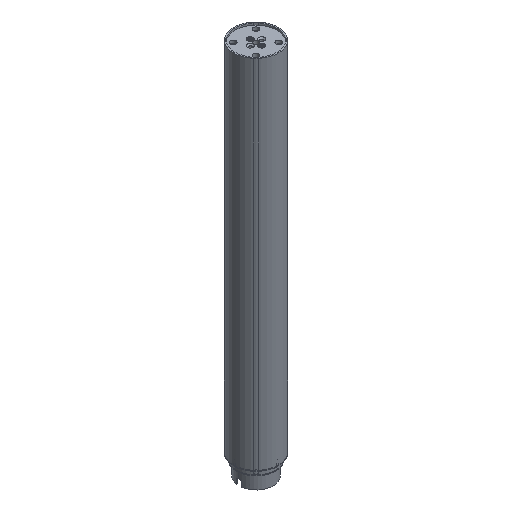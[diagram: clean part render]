
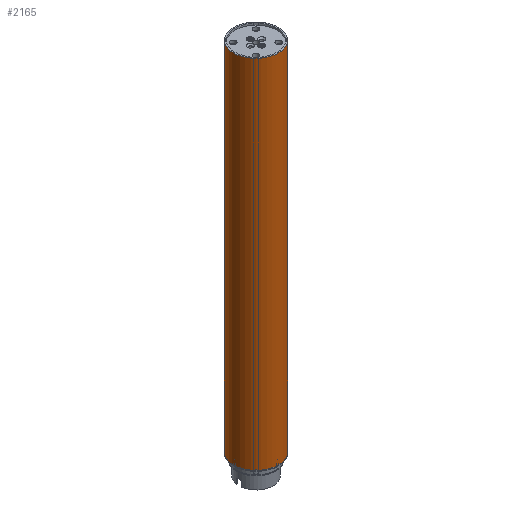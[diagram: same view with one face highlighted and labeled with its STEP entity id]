
A CAD part, isometric view. The second image highlights one B-rep face of the part: STEP entity #2165.
In plain terms, the highlighted cylindrical face has radius 35 mm (diameter 70 mm), a partial arc.
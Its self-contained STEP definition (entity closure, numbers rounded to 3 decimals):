
#568 = VERTEX_POINT ( 'NONE', #88030 ) ;
#2165 = ADVANCED_FACE ( 'NONE', ( #5633 ), #104373, .T. ) ;
#2626 = EDGE_CURVE ( 'NONE', #74277, #55663, #63567, .T. ) ;
#5633 = FACE_OUTER_BOUND ( 'NONE', #81376, .T. ) ;
#7070 = DIRECTION ( 'NONE',  ( 0., 0., 1. ) ) ;
#13225 = AXIS2_PLACEMENT_3D ( 'NONE', #27438, #26653, #118788 ) ;
#17112 = VECTOR ( 'NONE', #35468, 1000. ) ;
#21416 = ORIENTED_EDGE ( 'NONE', *, *, #62290, .T. ) ;
#25002 = DIRECTION ( 'NONE',  ( 0., 0., 1. ) ) ;
#26653 = DIRECTION ( 'NONE',  ( 0., 0., -1. ) ) ;
#27438 = CARTESIAN_POINT ( 'NONE',  ( 0., 0., 605.401 ) ) ;
#30471 = EDGE_CURVE ( 'NONE', #74277, #45929, #99816, .T. ) ;
#31160 = VECTOR ( 'NONE', #7070, 1000. ) ;
#31867 = EDGE_CURVE ( 'NONE', #45929, #568, #109577, .T. ) ;
#33137 = DIRECTION ( 'NONE',  ( -0.707, 0.707, 0. ) ) ;
#35468 = DIRECTION ( 'NONE',  ( 0., 0., 1. ) ) ;
#35880 = CIRCLE ( 'NONE', #13225, 35. ) ;
#38338 = AXIS2_PLACEMENT_3D ( 'NONE', #74489, #65543, #66332 ) ;
#45929 = VERTEX_POINT ( 'NONE', #51636 ) ;
#48225 = ORIENTED_EDGE ( 'NONE', *, *, #31867, .F. ) ;
#51636 = CARTESIAN_POINT ( 'NONE',  ( -24.749, 24.749, 45.401 ) ) ;
#55663 = VERTEX_POINT ( 'NONE', #97345 ) ;
#62290 = EDGE_CURVE ( 'NONE', #55663, #568, #35880, .T. ) ;
#62640 = CARTESIAN_POINT ( 'NONE',  ( -24.749, 24.749, 45.401 ) ) ;
#63567 = LINE ( 'NONE', #69590, #17112 ) ;
#65543 = DIRECTION ( 'NONE',  ( 0., 0., -1. ) ) ;
#66332 = DIRECTION ( 'NONE',  ( 0.707, -0.707, 0. ) ) ;
#66383 = AXIS2_PLACEMENT_3D ( 'NONE', #70445, #25002, #33137 ) ;
#69590 = CARTESIAN_POINT ( 'NONE',  ( 24.749, -24.749, 45.401 ) ) ;
#70445 = CARTESIAN_POINT ( 'NONE',  ( 0., 0., 45.401 ) ) ;
#74277 = VERTEX_POINT ( 'NONE', #95532 ) ;
#74489 = CARTESIAN_POINT ( 'NONE',  ( 0., 0., 45.401 ) ) ;
#81376 = EDGE_LOOP ( 'NONE', ( #117002, #113935, #21416, #48225 ) ) ;
#88030 = CARTESIAN_POINT ( 'NONE',  ( -24.749, 24.749, 605.401 ) ) ;
#95532 = CARTESIAN_POINT ( 'NONE',  ( 24.749, -24.749, 45.401 ) ) ;
#97345 = CARTESIAN_POINT ( 'NONE',  ( 24.749, -24.749, 605.401 ) ) ;
#99816 = CIRCLE ( 'NONE', #38338, 35. ) ;
#104373 = CYLINDRICAL_SURFACE ( 'NONE', #66383, 35. ) ;
#109577 = LINE ( 'NONE', #62640, #31160 ) ;
#113935 = ORIENTED_EDGE ( 'NONE', *, *, #2626, .T. ) ;
#117002 = ORIENTED_EDGE ( 'NONE', *, *, #30471, .F. ) ;
#118788 = DIRECTION ( 'NONE',  ( 0.707, -0.707, 0. ) ) ;
